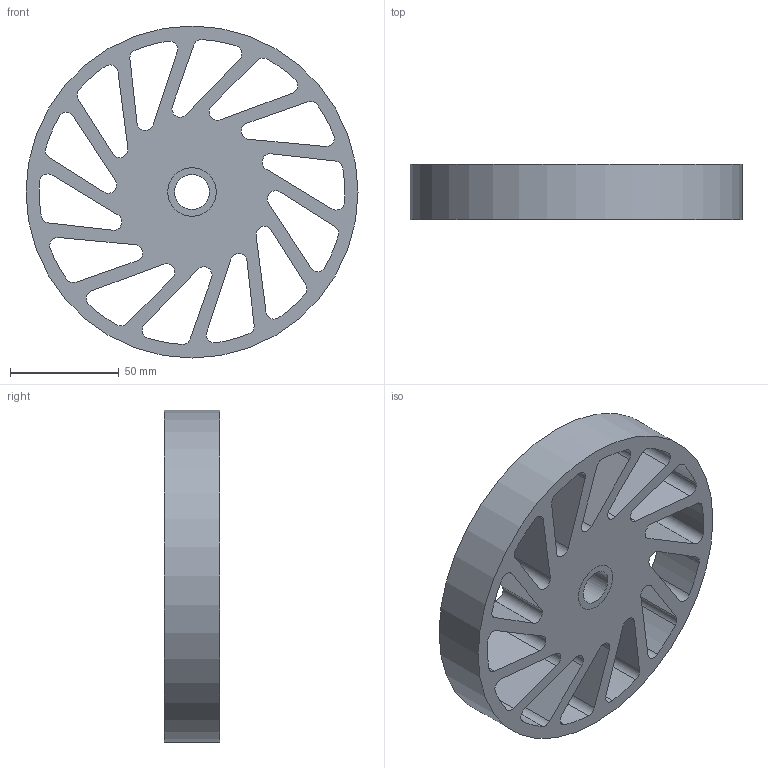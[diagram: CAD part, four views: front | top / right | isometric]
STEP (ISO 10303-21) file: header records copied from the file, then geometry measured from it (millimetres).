
FILE_DESCRIPTION(/* description */ (''),/* implementation_level */ '2;1');
FILE_NAME(/* name */ 'C:\Users\Owner\Desktop\Meridian Stuff\Oilite\NCWOB-560-XXX.stp',/* time_stamp */ '2023-05-22T17:19:18-05:00',/* author */ ('ASG'),/* organization */ ('Meridian Laboratory '),/* preprocessor_version */ 'ST-DEVELOPER v19',/* originating_system */ 'Autodesk Inventor 2023',/* authorisation */ '');
FILE_SCHEMA (('AUTOMOTIVE_DESIGN { 1 0 10303 214 3 1 1 }'));
Length unit declared in the file: inch
Products named in the file (1): NCWOB-540-XXX
Bounding box: 152.4 x 25.4 x 152.4 mm (x, y, z)
Volume: 254741 mm3; surface area: 73938.6 mm2
Topology: 2 solids, 2 shells, 92 faces, 264 edges, 176 vertices
Faces by surface type: cylinder 60, plane 32
Full cylindrical faces by diameter (mm): 15.926 x1, 22.225 x2, 152.4 x1
Entity records: 3285 total; most frequent: DIRECTION 570, CARTESIAN_POINT 533, ORIENTED_EDGE 528, EDGE_CURVE 264, AXIS2_PLACEMENT_3D 213, VERTEX_POINT 176, LINE 144, VECTOR 144
